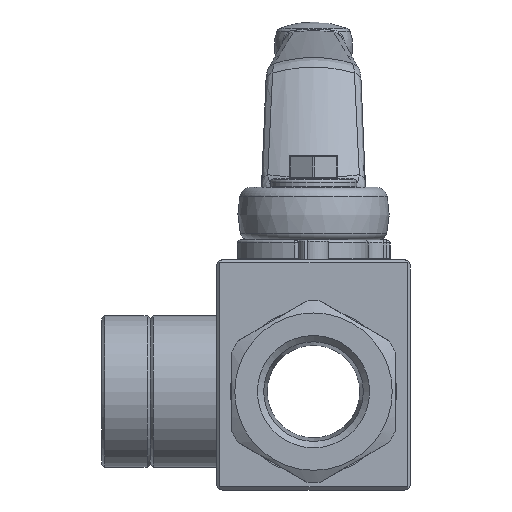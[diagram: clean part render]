
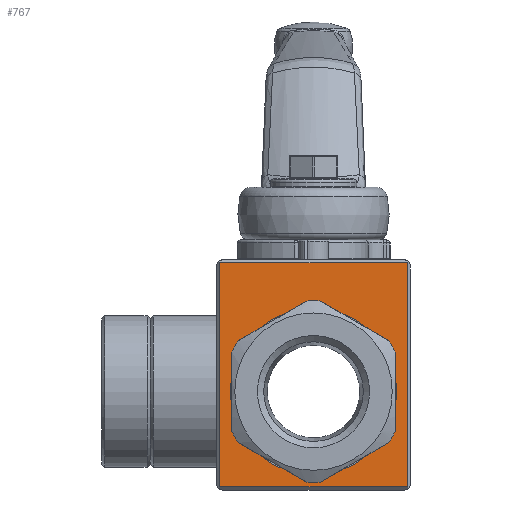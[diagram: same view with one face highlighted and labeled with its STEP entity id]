
A CAD part, front view. The second image highlights one B-rep face of the part: STEP entity #767.
In plain terms, the highlighted planar face has unit normal (0, -1, 0).
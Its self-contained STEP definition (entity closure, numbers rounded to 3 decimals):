
#767 = ADVANCED_FACE( '', ( #1738, #1739 ), #1740, .T. );
#1738 = FACE_OUTER_BOUND( '', #3328, .T. );
#1739 = FACE_BOUND( '', #3329, .T. );
#1740 = PLANE( '', #3330 );
#3328 = EDGE_LOOP( '', ( #5961, #5962, #5963, #5964 ) );
#3329 = EDGE_LOOP( '', ( #5965 ) );
#3330 = AXIS2_PLACEMENT_3D( '', #5966, #5967, #5968 );
#5961 = ORIENTED_EDGE( '', *, *, #9075, .T. );
#5962 = ORIENTED_EDGE( '', *, *, #9076, .T. );
#5963 = ORIENTED_EDGE( '', *, *, #8974, .T. );
#5964 = ORIENTED_EDGE( '', *, *, #9077, .T. );
#5965 = ORIENTED_EDGE( '', *, *, #9078, .T. );
#5966 = CARTESIAN_POINT( '', ( -16., -21.6, -16.25 ) );
#5967 = DIRECTION( '', ( 0., -1., 0. ) );
#5968 = DIRECTION( '', ( 0., 0., -1. ) );
#8974 = EDGE_CURVE( '', #10614, #10622, #10624, .T. );
#9075 = EDGE_CURVE( '', #10780, #10781, #10782, .T. );
#9076 = EDGE_CURVE( '', #10781, #10614, #10783, .T. );
#9077 = EDGE_CURVE( '', #10622, #10780, #10784, .T. );
#9078 = EDGE_CURVE( '', #10785, #10785, #10786, .T. );
#10614 = VERTEX_POINT( '', #13153 );
#10622 = VERTEX_POINT( '', #13163 );
#10624 = LINE( '', #13166, #13167 );
#10780 = VERTEX_POINT( '', #13454 );
#10781 = VERTEX_POINT( '', #13455 );
#10782 = LINE( '', #13456, #13457 );
#10783 = LINE( '', #13458, #13459 );
#10784 = LINE( '', #13460, #13461 );
#10785 = VERTEX_POINT( '', #13462 );
#10786 = CIRCLE( '', #13463, 13.75 );
#13153 = CARTESIAN_POINT( '', ( 15.5, -21.6, 21.25 ) );
#13163 = CARTESIAN_POINT( '', ( -15.5, -21.6, 21.25 ) );
#13166 = CARTESIAN_POINT( '', ( -16., -21.6, 21.25 ) );
#13167 = VECTOR( '', #16232, 1000. );
#13454 = CARTESIAN_POINT( '', ( -15.5, -21.6, -15.75 ) );
#13455 = CARTESIAN_POINT( '', ( 15.5, -21.6, -15.75 ) );
#13456 = CARTESIAN_POINT( '', ( 16., -21.6, -15.75 ) );
#13457 = VECTOR( '', #16380, 1000. );
#13458 = CARTESIAN_POINT( '', ( 15.5, -21.6, 21.75 ) );
#13459 = VECTOR( '', #16381, 1000. );
#13460 = CARTESIAN_POINT( '', ( -15.5, -21.6, -16.25 ) );
#13461 = VECTOR( '', #16382, 1000. );
#13462 = CARTESIAN_POINT( '', ( 13.75, -21.6, 0. ) );
#13463 = AXIS2_PLACEMENT_3D( '', #16383, #16384, #16385 );
#16232 = DIRECTION( '', ( -1., 0., 0. ) );
#16380 = DIRECTION( '', ( 1., 0., 0. ) );
#16381 = DIRECTION( '', ( 0., 0., 1. ) );
#16382 = DIRECTION( '', ( 0., 0., -1. ) );
#16383 = CARTESIAN_POINT( '', ( 0., -21.6, 0. ) );
#16384 = DIRECTION( '', ( 0., 1., 0. ) );
#16385 = DIRECTION( '', ( 1., 0., 0. ) );
